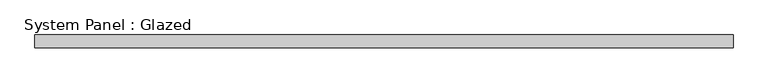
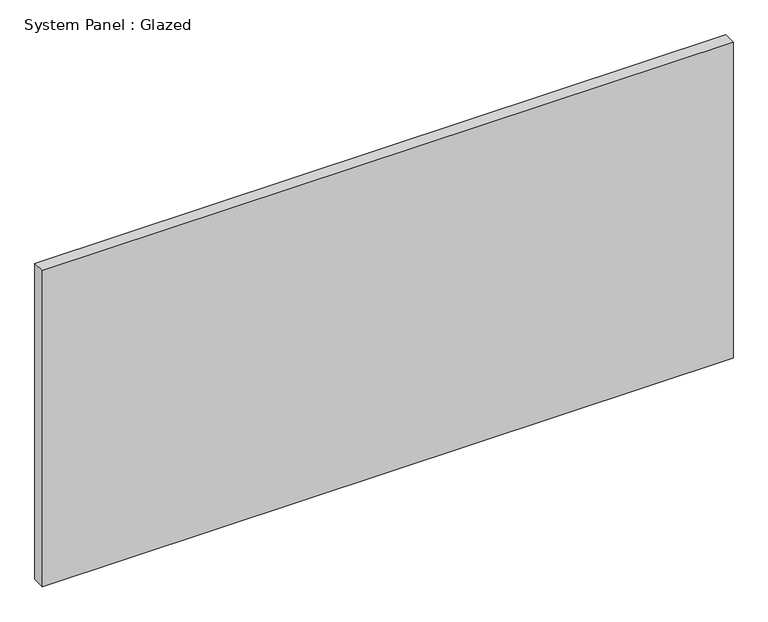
"""IFC4 building model written with IfcOpenShell, lengths in millimetres: plate geometry, System Panel : Glazed."""

from ifc_helpers import new_model, si_unit, origin, origin_with_axes, place, context, project, spatial, polyline, outline, extrude, source, transform, mapped, element, save


def system_panel_glazed_e82ad010(model_context):
    return source(origin(), model_context, "Body", "SweptSolid", [
        extrude(outline(polyline([(688.975, 19.05), (-688.975, 19.05), (-688.975, 44.45), (688.975, 44.45), (688.975, 19.05)])), origin_with_axes(), (0.0, 0.0, 1.0), 666.75),
    ])


if __name__ == "__main__":
    model = new_model("IFC4")
    model_context = context("Model", 3, world=origin())
    ifc_project = project(units=[si_unit("LENGTHUNIT", "METRE", prefix="MILLI")], contexts=[model_context])
    site = spatial("IfcSite", under=ifc_project)
    building = spatial("IfcBuilding", under=site)
    placement = place(None, origin())
    system_panel_glazed_shape = system_panel_glazed_e82ad010(model_context)
    element("IfcPlate", 1, ObjectType="System Panel : Glazed", at=placement, inside=building, context=model_context, shape_type="MappedRepresentation", body=[
        mapped(system_panel_glazed_shape, transform((0.0, 0.0, 0.0), x_axis=(1.0, 0.0, 0.0), y_axis=(0.0, 1.0, 0.0), z_axis=(0.0, 0.0, 1.0))),
    ])
    save(model, "model.ifc")
